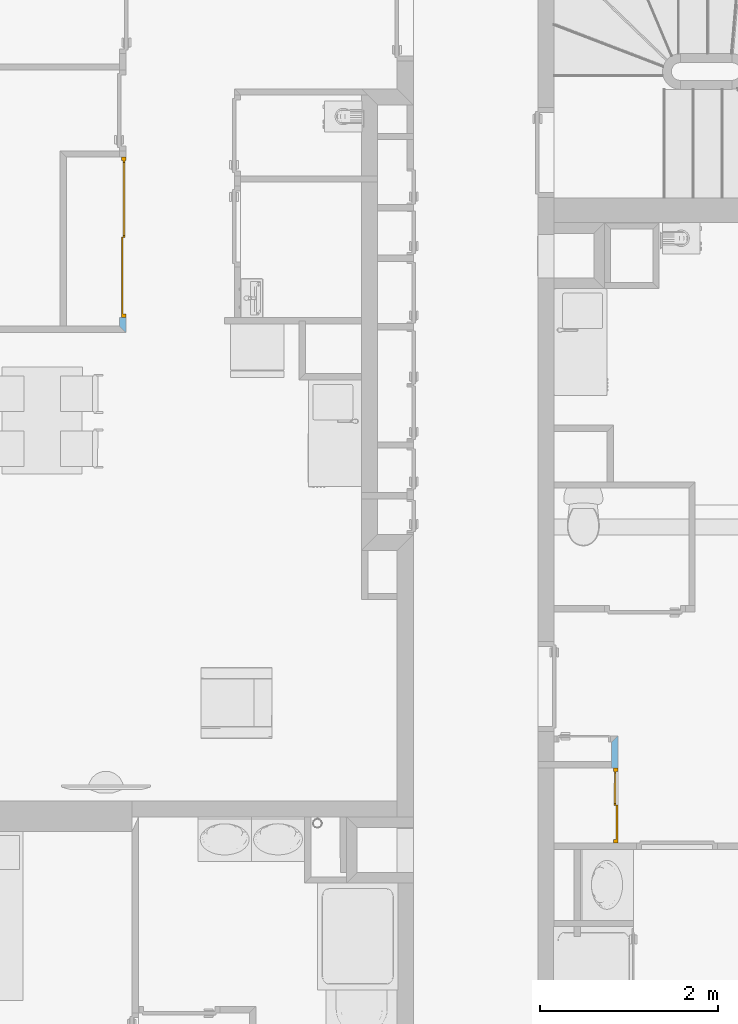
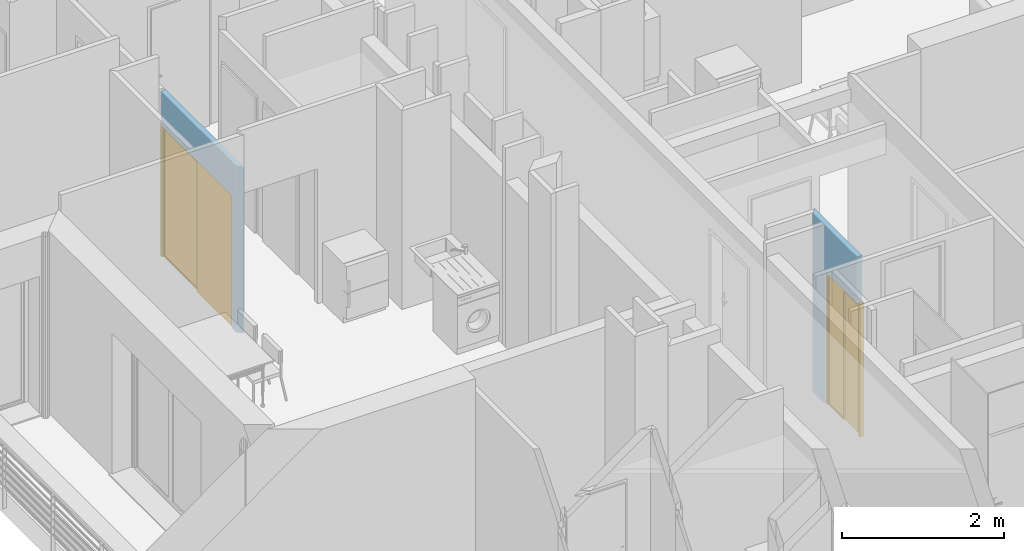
# One storey, part 108 of 171: 2 doors, 2 openings, plus 2 elements that do not belong to this part.
"""IFC2X3 building model written with IfcOpenShell, lengths in millimetres."""

from ifc_helpers import new_model, entity, si_unit, converted_unit, derived_unit, money_unit, direction, frame, origin_with_axes, origin_2d_with_axis, place, context, subcontext, project, spatial, polyline, rectangle, outline, extrude, open_shell, faceted_brep, surface_model, material, layer, layer_set, layer_usage, type_object, element, fill, save


model = new_model("IFC2X3")

# Units and contexts
model_context = context("Model", 3, precision=0.01, world=origin_with_axes(), true_north=direction((0.0, 1.0)))
body_context = subcontext(model_context, "Body", "Model", "MODEL_VIEW")
ifc_project = project(units=[si_unit("LENGTHUNIT", "METRE", prefix="MILLI"), si_unit("AREAUNIT", "SQUARE_METRE"), si_unit("VOLUMEUNIT", "CUBIC_METRE"), converted_unit("PLANEANGLEUNIT", "DEGREE", entity("IfcPlaneAngleMeasure", 0.0174532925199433), si_unit("PLANEANGLEUNIT", "RADIAN"), dimensions=[0, 0, 0, 0, 0, 0, 0]), money_unit("USD"), converted_unit("TIMEUNIT", "Year", entity("IfcTimeMeasure", 31557600.0), si_unit("TIMEUNIT", "SECOND"), dimensions=[0, 0, 1, 0, 0, 0, 0]), si_unit("MASSUNIT", "GRAM", prefix="KILO"), si_unit("THERMODYNAMICTEMPERATUREUNIT", "DEGREE_CELSIUS"), si_unit("LUMINOUSINTENSITYUNIT", "LUMEN"), si_unit("ENERGYUNIT", "JOULE", prefix="MEGA"), derived_unit("THERMALCONDUCTANCEUNIT", [(si_unit("POWERUNIT", "WATT"), 1), (si_unit("LENGTHUNIT", "METRE"), -1), (si_unit("THERMODYNAMICTEMPERATUREUNIT", "KELVIN"), -1)]), derived_unit("SPECIFICHEATCAPACITYUNIT", [(si_unit("ENERGYUNIT", "JOULE"), 1), (si_unit("MASSUNIT", "GRAM", prefix="KILO"), -1), (si_unit("THERMODYNAMICTEMPERATUREUNIT", "KELVIN"), -1)]), derived_unit("MASSDENSITYUNIT", [(si_unit("MASSUNIT", "GRAM", prefix="KILO"), 1), (si_unit("VOLUMEUNIT", "CUBIC_METRE"), -1)])], contexts=[model_context])

# Site, building, storey
site_placement = place(None, origin_with_axes())
site = spatial("IfcSite", under=ifc_project, at=site_placement, Name="Site", CompositionType="ELEMENT")
building_placement = place(site_placement, origin_with_axes())
building = spatial("IfcBuilding", under=site, at=building_placement, Name="Bâtiment", CompositionType="ELEMENT")
storey_placement = place(building_placement, frame((0.0, 0.0, 3000.0), z_axis=(0.0, 0.0, 1.0), x_axis=(1.0, 0.0, 0.0)))
storey = spatial("IfcBuildingStorey", under=building, at=storey_placement, Name="rdc", CompositionType="ELEMENT", Elevation=3000.0)

# Wall, opening, door
ifc_material = material(Name="Hachure solide 268963992")
ifc_layer = layer(ifc_material, 70.0, ventilated="UNKNOWN")
ifc_layer_set = layer_set([ifc_layer], Name="Cloison 70 0826278243")
ifc_layer_usage_1 = layer_usage(ifc_layer_set, "AXIS2", "NEGATIVE", 70.0)
wall_type = type_object("IfcWallType", Name="Cloison 70 0826278243 70", PredefinedType="NOTDEFINED")
wall_1_placement = place(storey_placement, frame((2221010.880755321, -636817.9291753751, 0.0), z_axis=(0.0, 0.0, 1.0), x_axis=(-2.570276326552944e-07, -0.999999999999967, 0.0)))
wall_1 = element("IfcWallStandardCase", 1, at=wall_1_placement, inside=storey, type_object=wall_type, material=ifc_layer_usage_1, Name="Mur-149", context=body_context, shape_type="SweptSolid", body=[
    extrude(outline(polyline([(0.0, 0.0), (1858.87852385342, 0.0), (1928.878803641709, 70.00000000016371), (0.0, 70.00000000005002), (0.0, 0.0)])), origin_with_axes(), (0.0, 0.0, 1.0), 2512.25122490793),
])
opening_1_placement = place(wall_1_placement, frame((861.2301836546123, 1.13686837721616e-10, 0.0), z_axis=(0.0, 0.0, 1.0), x_axis=(1.0, 0.0, 0.0)))
opening_1 = element("IfcOpeningElement", 2, at=opening_1_placement, cuts=wall_1, Name="Por-321", context=body_context, shape_type="SweptSolid", body=[
    extrude(rectangle(XDim=1805.731663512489, YDim=2000.0, at=origin_2d_with_axis()), frame((0.0, 70.00000000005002, 1000.0), z_axis=(0.0, -1.0, 0.0), x_axis=(1.0, 0.0, 0.0)), (0.0, 0.0, -1.0), 70.0),
    extrude(rectangle(XDim=1805.731663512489, YDim=2000.0, at=origin_2d_with_axis()), frame((0.0, 70.00000000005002, 1000.0), z_axis=(0.0, 1.0, 0.0), x_axis=(1.0, 0.0, 0.0)), (0.0, 0.0, -1.0), 70.0),
])
door_style = type_object("IfcDoorStyle", ConstructionType="NOTDEFINED", OperationType="NOTDEFINED", ParameterTakesPrecedence=False, Sizeable=False)
door_1_placement = place(opening_1_placement, frame((902.8658317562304, -2.273736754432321e-10, 0.0), z_axis=(0.0, 0.0, 1.0), x_axis=(-1.0, 0.0, 0.0)))
door_1 = element("IfcDoor", 3, at=door_1_placement, inside=storey, type_object=door_style, Name="Por-321", OverallHeight=2000.0, OverallWidth=1805.73, context=body_context, shape_type="SurfaceModel", body=[
    faceted_brep([(0.0, -19.99999999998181, 0.0), (0.0, -19.99999999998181, 2000.0), (1805.731663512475, -19.99999999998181, 2000.0), (1805.731663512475, -19.99999999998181, 0.0), (1765.731663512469, -19.99999999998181, 0.0), (1765.731663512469, -19.99999999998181, 1960.0), (39.99999999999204, -19.99999999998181, 1960.0), (39.99999999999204, -19.99999999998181, 0.0), (0.0, -69.99999999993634, 0.0), (0.0, -69.99999999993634, 2000.0), (1805.731663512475, -70.00000000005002, 2000.0), (1805.731663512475, -70.00000000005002, 0.0), (1765.731663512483, -70.00000000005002, 0.0), (1765.731663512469, -29.99999999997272, 0.0), (1765.731663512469, -29.99999999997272, 1960.0), (39.99999999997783, -29.99999999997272, 1960.0), (39.99999999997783, -29.99999999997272, 0.0), (39.99999999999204, -70.00000000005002, 0.0), (39.99999999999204, -70.00000000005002, 1960.0), (1765.731663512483, -70.00000000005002, 1960.0)], [[[0, 1, 2, 3, 4, 5, 6, 7]], [[8, 9, 1, 0]], [[9, 10, 2, 1]], [[10, 11, 3, 2]], [[3, 11, 12, 13, 4]], [[5, 4, 13, 14]], [[6, 5, 14, 15]], [[7, 6, 15, 16]], [[0, 7, 16, 17, 8]], [[17, 18, 19, 12, 11, 10, 9, 8]], [[14, 13, 12, 19]], [[15, 14, 19, 18]], [[16, 15, 18, 17]]]),
    faceted_brep([(1765.731663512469, -39.99999999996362, 0.0), (1765.731663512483, -59.99999999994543, 0.0), (902.8658317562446, -59.99999999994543, 0.0), (902.8658317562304, -39.99999999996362, 0.0), (1765.731663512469, -39.99999999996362, 1960.0), (1765.731663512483, -59.99999999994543, 1960.0), (902.8658317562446, -59.99999999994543, 1960.0), (1745.731663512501, -59.99999999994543, 20.00000000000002), (922.8658317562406, -59.99999999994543, 20.00000000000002), (922.8658317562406, -59.99999999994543, 1940.0), (1745.731663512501, -59.99999999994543, 1940.0), (902.8658317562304, -39.99999999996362, 1960.0), (1745.731663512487, -39.99999999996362, 20.00000000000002), (1745.731663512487, -39.99999999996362, 1940.0), (922.8658317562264, -39.99999999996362, 1940.0), (922.8658317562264, -39.99999999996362, 20.00000000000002)], [[[0, 1, 2, 3]], [[4, 5, 1, 0]], [[1, 5, 6, 2], [7, 8, 9, 10]], [[3, 2, 6, 11]], [[0, 3, 11, 4], [12, 13, 14, 15]], [[11, 6, 5, 4]], [[15, 8, 7, 12]], [[14, 9, 8, 15]], [[13, 10, 9, 14]], [[12, 7, 10, 13]]]),
    surface_model("IfcShellBasedSurfaceModel", [(1745.731663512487, -49.99999999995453, 20.00000000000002), (1745.731663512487, -49.99999999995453, 1940.0), (922.8658317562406, -49.99999999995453, 1940.0), (922.8658317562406, -49.99999999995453, 20.00000000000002)], [open_shell([[[0, 1, 2, 3]]])]),
    faceted_brep([(907.8658317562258, -19.99999999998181, 0.0), (907.8658317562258, -39.99999999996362, 0.0), (39.99999999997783, -39.99999999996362, 0.0), (39.99999999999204, -19.99999999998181, 0.0), (907.8658317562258, -19.99999999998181, 1960.0), (907.8658317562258, -39.99999999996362, 1960.0), (39.99999999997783, -39.99999999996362, 1960.0), (39.99999999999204, -19.99999999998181, 1960.0)], [[[0, 1, 2, 3]], [[4, 5, 1, 0]], [[1, 5, 6, 2]], [[3, 2, 6, 7]], [[0, 3, 7, 4]], [[7, 6, 5, 4]]]),
])
fill(opening_1, door_1)

ifc_layer_usage_2 = layer_usage(ifc_layer_set, "AXIS2", "POSITIVE", -70.0)
wall_2_placement = place(storey_placement, frame((2226612.430403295, -643283.1881488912, 0.0), z_axis=(0.0, 0.0, 1.0), x_axis=(-0.0001056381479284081, -0.9999999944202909, 0.0)))
wall_2 = element("IfcWallStandardCase", 4, at=wall_2_placement, inside=storey, type_object=wall_type, material=ifc_layer_usage_2, Name="Mur-149", context=body_context, shape_type="SweptSolid", body=[
    extrude(outline(polyline([(69.99999999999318, -69.99999999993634), (1163.342692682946, -69.99999999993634), (1163.342692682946, 0.0), (0.0, 0.0), (69.99999999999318, -69.99999999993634)])), origin_with_axes(), (0.0, 0.0, 1.0), 2700.0),
])
opening_2_placement = place(wall_2_placement, frame((781.671346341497, 1.13686837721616e-10, 0.0), z_axis=(0.0, 0.0, 1.0), x_axis=(1.0, 0.0, 0.0)))
opening_2 = element("IfcOpeningElement", 5, at=opening_2_placement, cuts=wall_2, Name="Por-321", context=body_context, shape_type="SweptSolid", body=[
    extrude(rectangle(XDim=843.3426926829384, YDim=2000.0, at=origin_2d_with_axis()), frame((0.0, 0.0, 1000.0), z_axis=(0.0, -1.0, 0.0), x_axis=(1.0, 0.0, 0.0)), (0.0, 0.0, -1.0), 70.0),
    extrude(rectangle(XDim=843.3426926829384, YDim=2000.0, at=origin_2d_with_axis()), frame((0.0, 0.0, 1000.0), z_axis=(0.0, 1.0, 0.0), x_axis=(1.0, 0.0, 0.0)), (0.0, 0.0, -1.0), 70.0),
])
door_2_placement = place(opening_2_placement, frame((-421.6713463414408, 0.0, 0.0), z_axis=(0.0, 0.0, 1.0), x_axis=(1.0, 0.0, 0.0)))
door_2 = element("IfcDoor", 6, at=door_2_placement, inside=storey, type_object=door_style, Name="Por-321", OverallHeight=2000.0, OverallWidth=843.343, context=body_context, shape_type="SurfaceModel", body=[
    faceted_brep([(843.3426926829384, 0.0, 0.0), (803.3426926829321, 0.0, 0.0), (803.3426926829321, 0.0, 1960.0), (39.99999999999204, 0.0, 1960.0), (39.99999999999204, 0.0, 0.0), (0.0, 0.0, 0.0), (0.0, 0.0, 2000.0), (843.3426926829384, 0.0, 2000.0), (843.3426926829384, -49.99999999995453, 0.0), (803.3426926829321, -49.99999999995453, 0.0), (803.3426926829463, -9.999999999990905, 0.0), (803.3426926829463, -9.999999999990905, 1960.0), (39.99999999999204, -9.999999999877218, 1960.0), (39.99999999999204, -9.999999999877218, 0.0), (39.99999999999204, -50.00000000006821, 0.0), (0.0, -50.00000000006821, 0.0), (0.0, -50.00000000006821, 2000.0), (843.3426926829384, -49.99999999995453, 2000.0), (39.99999999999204, -50.00000000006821, 1960.0), (803.3426926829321, -49.99999999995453, 1960.0)], [[[0, 1, 2, 3, 4, 5, 6, 7]], [[0, 8, 9, 10, 1]], [[1, 10, 11, 2]], [[2, 11, 12, 3]], [[3, 12, 13, 4]], [[5, 4, 13, 14, 15]], [[16, 6, 5, 15]], [[17, 7, 6, 16]], [[8, 0, 7, 17]], [[9, 8, 17, 16, 15, 14, 18, 19]], [[10, 9, 19, 11]], [[11, 19, 18, 12]], [[12, 18, 14, 13]]]),
    faceted_brep([(40.00000000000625, -19.99999999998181, 0.0), (421.671346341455, -19.99999999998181, 0.0), (421.6713463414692, -39.99999999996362, 0.0), (39.99999999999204, -39.99999999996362, 0.0), (40.00000000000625, -19.99999999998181, 1960.0), (421.671346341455, -19.99999999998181, 1960.0), (59.99999999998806, -19.99999999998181, 20.00000000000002), (401.671346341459, -19.99999999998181, 20.00000000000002), (401.671346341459, -19.99999999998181, 1940.0), (59.99999999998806, -19.99999999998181, 1940.0), (421.6713463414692, -39.99999999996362, 1960.0), (39.99999999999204, -39.99999999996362, 1960.0), (60.00000000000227, -39.99999999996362, 20.00000000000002), (60.00000000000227, -39.99999999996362, 1940.0), (401.671346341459, -40.00000000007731, 1940.0), (401.671346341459, -40.00000000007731, 20.00000000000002)], [[[0, 1, 2, 3]], [[0, 4, 5, 1], [6, 7, 8, 9]], [[1, 5, 10, 2]], [[3, 2, 10, 11], [12, 13, 14, 15]], [[4, 0, 3, 11]], [[5, 4, 11, 10]], [[7, 6, 12, 15]], [[8, 7, 15, 14]], [[9, 8, 14, 13]], [[6, 9, 13, 12]]]),
    surface_model("IfcShellBasedSurfaceModel", [(59.99999999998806, -29.99999999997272, 20.00000000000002), (401.6713463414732, -29.99999999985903, 20.00000000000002), (401.6713463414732, -29.99999999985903, 1940.0), (59.99999999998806, -29.99999999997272, 1940.0)], [open_shell([[[0, 1, 2, 3]]])]),
    faceted_brep([(416.6713463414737, 0.0, 0.0), (803.3426926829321, 0.0, 0.0), (803.3426926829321, -19.99999999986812, 0.0), (416.6713463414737, -19.99999999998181, 0.0), (416.6713463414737, 0.0, 1960.0), (803.3426926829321, 0.0, 1960.0), (803.3426926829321, -19.99999999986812, 1960.0), (416.6713463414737, -19.99999999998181, 1960.0)], [[[0, 1, 2, 3]], [[0, 4, 5, 1]], [[1, 5, 6, 2]], [[3, 2, 6, 7]], [[4, 0, 3, 7]], [[5, 4, 7, 6]]]),
])
fill(opening_2, door_2)

save(model, "model.ifc")
